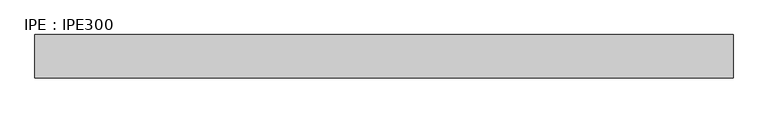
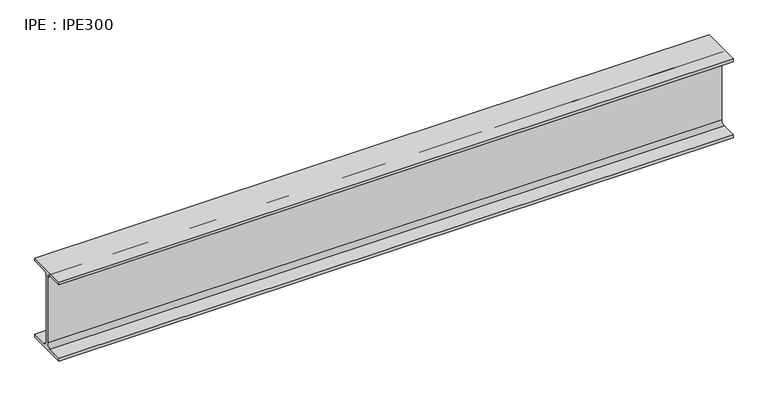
"""IFC4 building model written with IfcOpenShell, lengths in millimetres: beam geometry, IPE : IPE300."""

from ifc_helpers import new_model, si_unit, point, frame, frame_2d, origin, place, context, project, spatial, polyline, circle_curve, trimmed, segment, composite_curve, outline, extrude, source, transform, mapped, element, save


def ipe_ipe300_1a8c8bf1(model_context):
    return source(origin(), model_context, "Body", "SweptSolid", [
        extrude(outline(composite_curve([segment(polyline([(75.0, -139.3), (75.0, -150.0), (-75.0, -150.0), (-75.0, -139.3), (-18.55, -139.3)]), True, "CONTINUOUS"), segment(trimmed(circle_curve(frame_2d((-18.55, -124.3)), 15.0), [point((-18.55, -139.3))], [point((-3.55, -124.3))], True, "CARTESIAN"), True, "CONTINUOUS"), segment(polyline([(-3.55, -124.3), (-3.55, 124.3)]), True, "CONTINUOUS"), segment(trimmed(circle_curve(frame_2d((-18.55, 124.3)), 15.0), [point((-3.55, 124.3))], [point((-18.55, 139.3))], True, "CARTESIAN"), True, "CONTINUOUS"), segment(polyline([(-18.55, 139.3), (-75.0, 139.3), (-75.0, 150.0), (75.0, 150.0), (75.0, 139.3), (18.55, 139.3)]), True, "CONTINUOUS"), segment(trimmed(circle_curve(frame_2d((18.55, 124.3)), 15.0), [point((18.55, 139.3))], [point((3.55, 124.3))], True, "CARTESIAN"), True, "CONTINUOUS"), segment(polyline([(3.55, 124.3), (3.55, -124.3)]), True, "CONTINUOUS"), segment(trimmed(circle_curve(frame_2d((18.55, -124.3)), 15.0), [point((3.55, -124.3))], [point((18.55, -139.3))], True, "CARTESIAN"), True, "CONTINUOUS"), segment(polyline([(18.55, -139.3), (75.0, -139.3)]), True, "CONTINUOUS")], self_intersect=False)), frame((-1250.0, 0.0, 0.0), z_axis=(1.0, 0.0, 0.0), x_axis=(0.0, 1.0, 0.0)), (0.0, 0.0, 1.0), 2423.3),
    ])


if __name__ == "__main__":
    model = new_model("IFC4")
    model_context = context("Model", 3, world=origin())
    ifc_project = project(units=[si_unit("LENGTHUNIT", "METRE", prefix="MILLI")], contexts=[model_context])
    site = spatial("IfcSite", under=ifc_project)
    building = spatial("IfcBuilding", under=site)
    placement = place(None, origin())
    ipe_ipe300_shape = ipe_ipe300_1a8c8bf1(model_context)
    element("IfcBeam", 1, ObjectType="IPE : IPE300", at=placement, inside=building, context=model_context, shape_type="MappedRepresentation", body=[
        mapped(ipe_ipe300_shape, transform((0.0, 0.0, 0.0), x_axis=(1.0, 0.0, 0.0), y_axis=(0.0, 1.0, 0.0), z_axis=(0.0, 0.0, 1.0))),
    ])
    save(model, "model.ifc")
